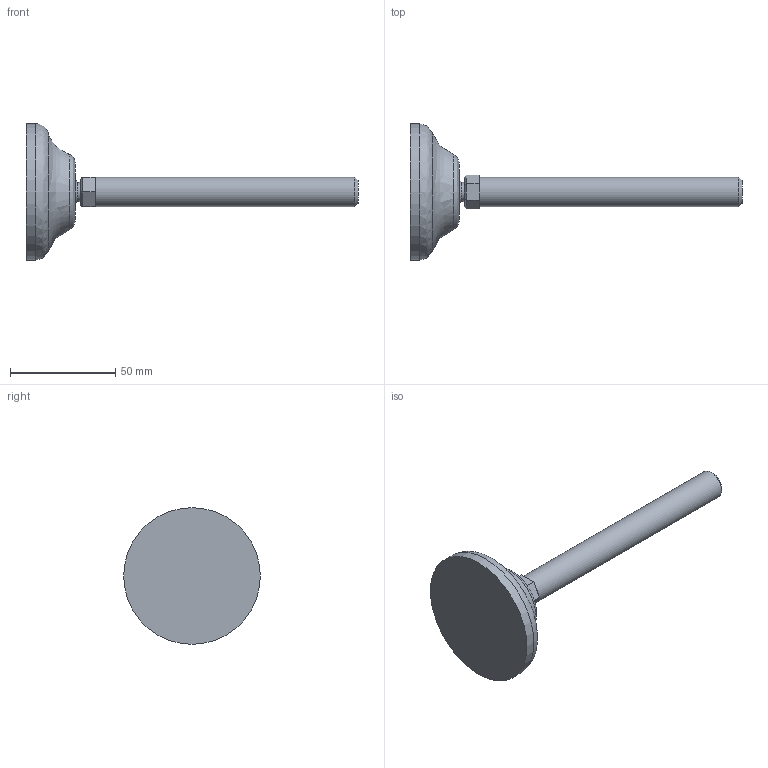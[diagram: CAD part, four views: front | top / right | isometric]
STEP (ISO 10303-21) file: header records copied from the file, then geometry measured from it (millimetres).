
FILE_DESCRIPTION(('STEP AP203'),'2;1');
FILE_NAME('10054.stp','2016-10-06T15:58:38',(''),(''),'2008.1.107','THINKDESIGN','');
FILE_SCHEMA(('CONFIG_CONTROL_DESIGN'));
Length unit declared in the file: millimetre
Bounding box: 158 x 65 x 65 mm (x, y, z)
Volume: 71266.3 mm3; surface area: 15702.3 mm2
Topology: 4 solids, 4 shells, 28 faces, 61 edges, 41 vertices
Faces by surface type: plane 14, bspline 11, cylinder 3
Full cylindrical faces by diameter (mm): 9.087 x1, 14 x1, 65 x1
Entity records: 1245 total; most frequent: CARTESIAN_POINT 454, DIRECTION 122, ORIENTED_EDGE 120, EDGE_CURVE 60, AXIS2_PLACEMENT_3D 44, VERTEX_POINT 40, VECTOR 34, LINE 34
